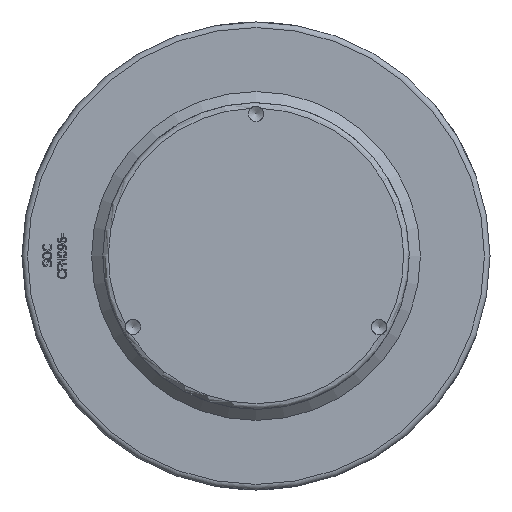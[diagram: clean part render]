
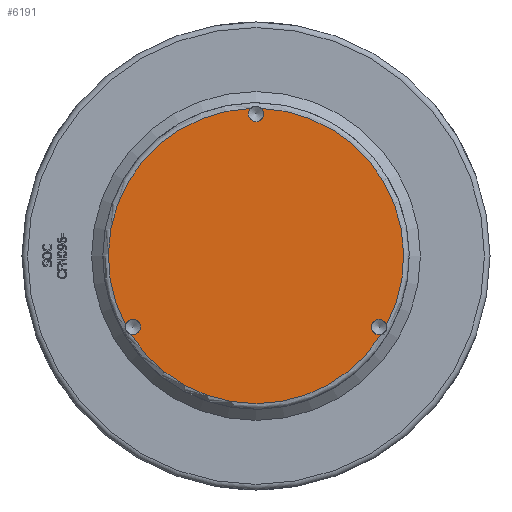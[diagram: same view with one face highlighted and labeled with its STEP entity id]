
A CAD part, front view. The second image highlights one B-rep face of the part: STEP entity #6191.
In plain terms, the highlighted planar face has unit normal (0, -1, 0) as drawn and (0, 1, 0) by its records, which use the part's own axes.
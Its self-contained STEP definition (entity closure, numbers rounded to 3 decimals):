
#1185=PLANE('',#6617);
#1840=FACE_OUTER_BOUND('',#2209,.T.);
#2209=EDGE_LOOP('',(#4274,#4275,#4276,#4277,#4278,#4279));
#2624=CIRCLE('',#6607,6.918);
#2626=CIRCLE('',#6611,6.918);
#2627=CIRCLE('',#6613,132.5);
#2628=CIRCLE('',#6614,132.5);
#2629=CIRCLE('',#6615,132.5);
#2631=CIRCLE('',#6618,6.918);
#2652=VERTEX_POINT('',#7600);
#2653=VERTEX_POINT('',#7601);
#2655=VERTEX_POINT('',#7621);
#2656=VERTEX_POINT('',#7622);
#2657=VERTEX_POINT('',#7639);
#2658=VERTEX_POINT('',#7641);
#3303=EDGE_CURVE('',#2653,#2652,#2624,.T.);
#3306=EDGE_CURVE('',#2656,#2655,#2626,.T.);
#3307=EDGE_CURVE('',#2653,#2657,#2627,.T.);
#3309=EDGE_CURVE('',#2658,#2655,#2628,.T.);
#3310=EDGE_CURVE('',#2656,#2652,#2629,.T.);
#3312=EDGE_CURVE('',#2658,#2657,#2631,.T.);
#4274=ORIENTED_EDGE('',*,*,#3303,.T.);
#4275=ORIENTED_EDGE('',*,*,#3310,.F.);
#4276=ORIENTED_EDGE('',*,*,#3306,.T.);
#4277=ORIENTED_EDGE('',*,*,#3309,.F.);
#4278=ORIENTED_EDGE('',*,*,#3312,.T.);
#4279=ORIENTED_EDGE('',*,*,#3307,.F.);
#6191=ADVANCED_FACE('',(#1840),#1185,.T.);
#6607=AXIS2_PLACEMENT_3D('',#7616,#6787,#6788);
#6611=AXIS2_PLACEMENT_3D('',#7637,#6795,#6796);
#6613=AXIS2_PLACEMENT_3D('',#7640,#6799,#6800);
#6614=AXIS2_PLACEMENT_3D('',#7654,#6801,#6802);
#6615=AXIS2_PLACEMENT_3D('',#7655,#6803,#6804);
#6617=AXIS2_PLACEMENT_3D('',#7658,#6807,#6808);
#6618=AXIS2_PLACEMENT_3D('',#7659,#6809,#6810);
#6787=DIRECTION('center_axis',(0.,-1.,0.));
#6788=DIRECTION('ref_axis',(-0.5,0.,-0.866));
#6795=DIRECTION('center_axis',(0.,-1.,0.));
#6796=DIRECTION('ref_axis',(-0.5,0.,0.866));
#6799=DIRECTION('center_axis',(0.,-1.,0.));
#6800=DIRECTION('ref_axis',(-1.,0.,0.));
#6801=DIRECTION('center_axis',(0.,-1.,0.));
#6802=DIRECTION('ref_axis',(-1.,0.,0.));
#6803=DIRECTION('center_axis',(0.,-1.,0.));
#6804=DIRECTION('ref_axis',(-1.,0.,0.));
#6807=DIRECTION('center_axis',(0.,1.,0.));
#6808=DIRECTION('ref_axis',(0.,0.,1.));
#6809=DIRECTION('center_axis',(0.,-1.,0.));
#6810=DIRECTION('ref_axis',(1.,0.,0.));
#7600=CARTESIAN_POINT('',(112.235,252.,-70.425));
#7601=CARTESIAN_POINT('',(117.107,252.,-61.986));
#7616=CARTESIAN_POINT('Origin',(110.418,252.,-63.75));
#7621=CARTESIAN_POINT('',(-117.107,252.,-61.986));
#7622=CARTESIAN_POINT('',(-112.235,252.,-70.425));
#7637=CARTESIAN_POINT('Origin',(-110.418,252.,-63.75));
#7639=CARTESIAN_POINT('',(4.872,252.,132.41));
#7640=CARTESIAN_POINT('Origin',(0.,252.,0.));
#7641=CARTESIAN_POINT('',(-4.872,252.,132.41));
#7654=CARTESIAN_POINT('Origin',(0.,252.,0.));
#7655=CARTESIAN_POINT('Origin',(0.,252.,0.));
#7658=CARTESIAN_POINT('Origin',(137.5,252.,0.));
#7659=CARTESIAN_POINT('Origin',(0.,252.,127.5));
